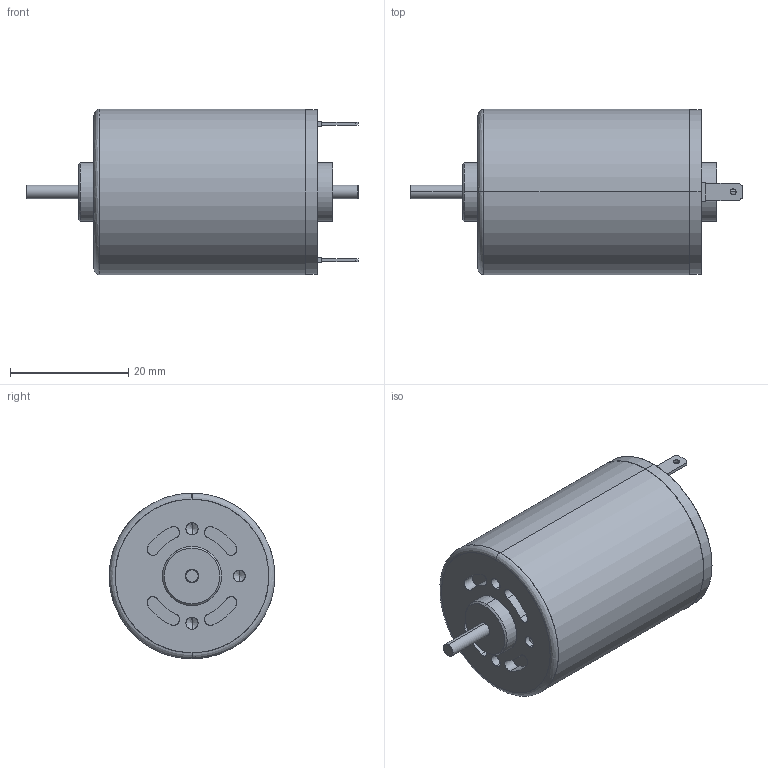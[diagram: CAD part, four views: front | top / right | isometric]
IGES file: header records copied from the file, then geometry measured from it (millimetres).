
Start section: SolidWorks IGES file using analytic representation for surfaces
Global section: file name: \\Uranus\R&D\plans\CATALOGUES\Topstock_Piece_IGES\RS385.IGS; native system: SolidWorks 2008; preprocessor: SolidWorks 2008; author: JUL; date: 090326.094202; units: millimetre
Bounding box: 56.2 x 28 x 28 mm (x, y, z)
Surface area: 5056.1 mm2 (no closed solid volume)
Topology: 0 solids, 0 shells, 108 faces, 1384 edges, 1376 vertices
Faces by surface type: revolution 58, bspline 50
